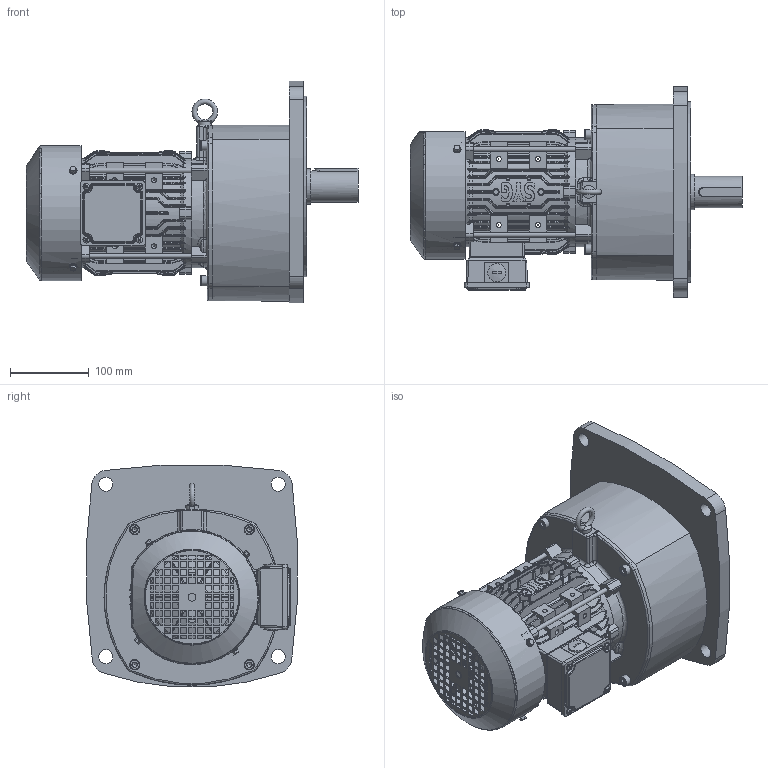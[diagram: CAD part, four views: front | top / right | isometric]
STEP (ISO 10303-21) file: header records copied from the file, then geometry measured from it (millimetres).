
FILE_DESCRIPTION(/* description */ (''),/* implementation_level */ '2;1');
FILE_NAME(/* name */ 'D:\▼ 3D：M2\00. 내부 직접 검토품\M2-153\외형도용 - ASS''Y\SK2\M21530A - OUTLINE (SK2，VT，0.75kW).stp',/* time_stamp */ '2026-05-18T11:15:24+09:00',/* author */ ('이정훈'),/* organization */ (''),/* preprocessor_version */ 'ST-DEVELOPER v18.1',/* originating_system */ 'Autodesk Inventor 2022',/* authorisation */ '');
FILE_SCHEMA (('AUTOMOTIVE_DESIGN { 1 0 10303 214 3 1 1 }'));
Products named in the file (1): M21530A - OUTLINE (SK2，VT，0.75k
W)
Bounding box: 422.5 x 268.41 x 282.39 mm (x, y, z)
Volume: 9050096.1 mm3; surface area: 611154.1 mm2
Topology: 1 solids, 1 shells, 3740 faces, 10040 edges, 6313 vertices
Faces by surface type: plane 1627, cylinder 1069, bspline 700, cone 213, torus 108, sphere 23
Full cylindrical faces by diameter (mm): 4.8 x4, 5 x4, 6 x8, 8 x4, 10 x1, 13 x4, 18 x4, 20 x1, 23 x2, 40 x1, 45 x1, 62 x1, 78 x1, 216 x1, 230 x1
Entity records: 159531 total; most frequent: CARTESIAN_POINT 69655, ORIENTED_EDGE 19986, DIRECTION 17482, EDGE_CURVE 9993, VERTEX_POINT 6313, AXIS2_PLACEMENT_3D 6256, LINE 4970, VECTOR 4970
